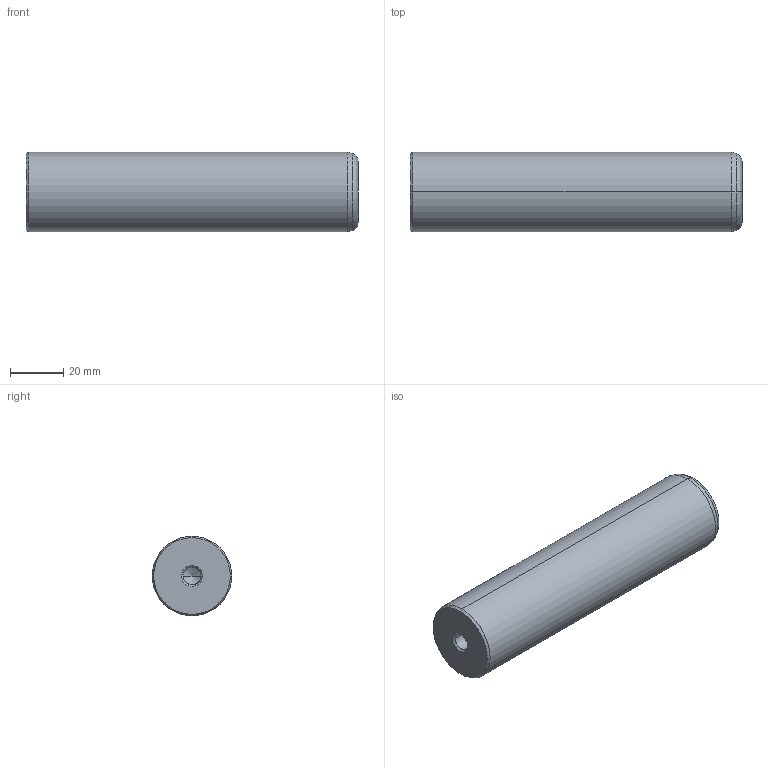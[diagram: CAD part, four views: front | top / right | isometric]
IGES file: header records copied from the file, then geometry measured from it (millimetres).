
Start section: START RECORD GO HERE.
Global section: file name: 720-30x125.igs; native system: DASSAULT SYSTEMES CATIA V5 R20 - www.3ds.com; preprocessor: CATIA Version 5 Release 20 ; author: Utente; organization: NB04-ASUS; date: 20210101.133502; units: millimetre
Bounding box: 125 x 30 x 30 mm (x, y, z)
Surface area: 13991.7 mm2 (no closed solid volume)
Topology: 0 solids, 0 shells, 22 faces, 120 edges, 116 vertices
Faces by surface type: revolution 20, plane 2
